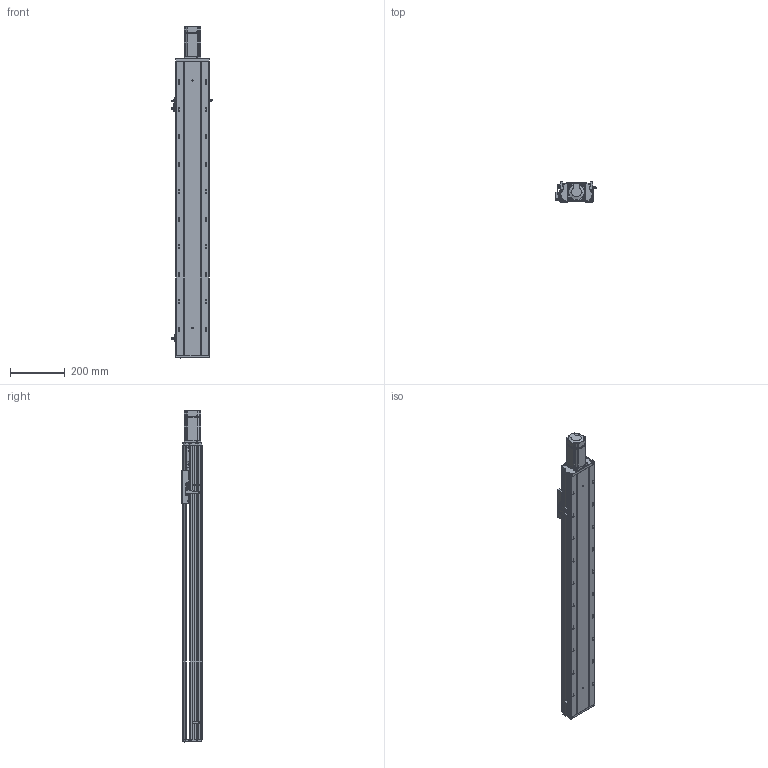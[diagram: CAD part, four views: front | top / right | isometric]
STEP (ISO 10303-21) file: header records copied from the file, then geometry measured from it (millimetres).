
FILE_DESCRIPTION (( 'STEP AP203' ), '1' );
FILE_NAME ('RYK120-L1610-S800-M40-C3-MK.STEP', '2026-03-09T06:53:21', ( '' ), ( '' ), 'SwSTEP 2.0', 'SolidWorks 2016', '' );
FILE_SCHEMA (( 'CONFIG_CONTROL_DESIGN' ));
Length unit declared in the file: millimetre
Products named in the file (17): 滅袉蝶18-24; RYK170-薊粣ん芵隴裔啣; RY120-16螺母油路-集中注油组合; 侂狟400W侜督萇儂; RY120外置感应片(140共用）; CB╱T 3762-1996[锥形润滑油嘴1-ZM10×1]_1-ZM10×1; RY120QGB-1.8; RY120电机端支撑座-压铸加工-M5; 44-49-12-14; 覜茼ん672; RY120綴裔啣; RYK120-300-MK-菁釱-啞_800; RYK120-300-MK-奻裔啣-啞_800; 15; RYK120-L1610-S800-M40-C3-MK; 滅袉蝶18-10; 2.10.1.C521-V1.0RY120臏賑輸16蹟譫-啞-JZZY-NRL-L1899
Assembly tree (21 placements, depth 3):
  RYK120-L1610-S800-M40-C3-MK
    RYK120-300-MK-菁釱-啞_800
    RYK120-300-MK-奻裔啣-啞_800
    RY120綴裔啣
    滅袉蝶18-24  x2
    滅袉蝶18-10  x2
    覜茼ん672  x3
    RY120外置感应片(140共用）
    RY120QGB-1.8
    RY120-16螺母油路-集中注油组合
      2.10.1.C521-V1.0RY120臏賑輸16蹟譫-啞-JZZY-NRL-L1899
      CB╱T 3762-1996[锥形润滑油嘴1-ZM10×1]_1-ZM10×1  x2
    RY120电机端支撑座-压铸加工-M5
    RYK170-薊粣ん芵隴裔啣
    44-49-12-14
    侂狟400W侜督萇儂
      15
Bounding box: 145.7 x 73 x 1208.5 mm (x, y, z)
Volume: 3257454.6 mm3; surface area: 1141737.4 mm2
Topology: 23 solids, 23 shells, 2728 faces, 7618 edges, 4879 vertices
Faces by surface type: plane 1231, cylinder 1097, cone 273, bspline 127
Entity records: 92244 total; most frequent: CARTESIAN_POINT 27280, ORIENTED_EDGE 13736, DIRECTION 12451, EDGE_CURVE 6868, VERTEX_POINT 4491, AXIS2_PLACEMENT_3D 4294, LINE 3863, VECTOR 3863
